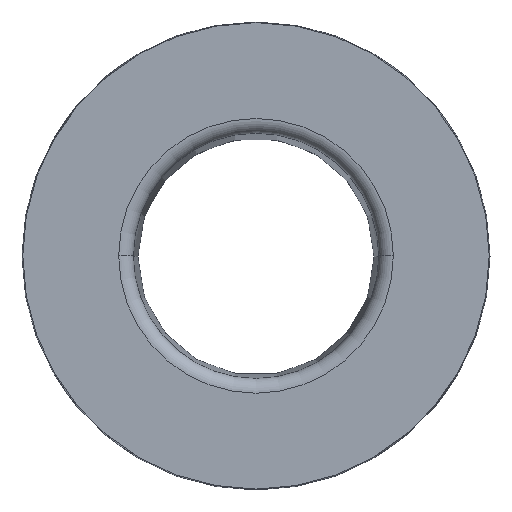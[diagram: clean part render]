
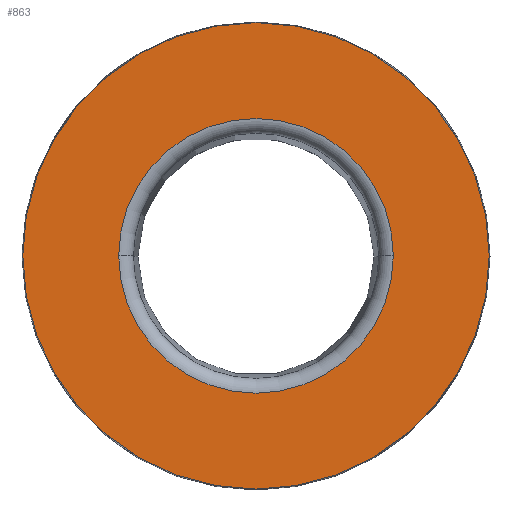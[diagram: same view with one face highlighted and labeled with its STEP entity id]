
A CAD part, top view. The second image highlights one B-rep face of the part: STEP entity #863.
In plain terms, the highlighted planar face has unit normal (0, 0, 1).
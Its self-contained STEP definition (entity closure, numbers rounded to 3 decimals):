
#19 = CARTESIAN_POINT ( 'NONE',  ( 4.696, 0., 18.5 ) ) ;
#44 = AXIS2_PLACEMENT_3D ( 'NONE', #505, #429, #342 ) ;
#54 = CARTESIAN_POINT ( 'NONE',  ( 0., 0., 18.5 ) ) ;
#107 = FACE_BOUND ( 'NONE', #977, .T. ) ;
#175 = VERTEX_POINT ( 'NONE', #19 ) ;
#236 = EDGE_CURVE ( 'NONE', #868, #837, #1151, .T. ) ;
#272 = DIRECTION ( 'NONE',  ( 0., 0., 1. ) ) ;
#312 = DIRECTION ( 'NONE',  ( 1., 0., 0. ) ) ;
#342 = DIRECTION ( 'NONE',  ( 1., 0., 0. ) ) ;
#375 = CARTESIAN_POINT ( 'NONE',  ( 0., 0., 18.5 ) ) ;
#391 = FACE_OUTER_BOUND ( 'NONE', #628, .T. ) ;
#429 = DIRECTION ( 'NONE',  ( 0., 0., -1. ) ) ;
#432 = DIRECTION ( 'NONE',  ( 1., 0., 0. ) ) ;
#437 = AXIS2_PLACEMENT_3D ( 'NONE', #375, #988, #451 ) ;
#443 = CARTESIAN_POINT ( 'NONE',  ( -7.974, 0., 18.5 ) ) ;
#451 = DIRECTION ( 'NONE',  ( 1., 0., 0. ) ) ;
#493 = CARTESIAN_POINT ( 'NONE',  ( 0., 0., 18.5 ) ) ;
#505 = CARTESIAN_POINT ( 'NONE',  ( 0., 0., 18.5 ) ) ;
#584 = ORIENTED_EDGE ( 'NONE', *, *, #623, .T. ) ;
#623 = EDGE_CURVE ( 'NONE', #1154, #175, #953, .T. ) ;
#628 = EDGE_LOOP ( 'NONE', ( #965, #869 ) ) ;
#655 = AXIS2_PLACEMENT_3D ( 'NONE', #724, #272, #432 ) ;
#701 = AXIS2_PLACEMENT_3D ( 'NONE', #493, #1042, #312 ) ;
#724 = CARTESIAN_POINT ( 'NONE',  ( 0., 0., 18.5 ) ) ;
#748 = CIRCLE ( 'NONE', #701, 4.696 ) ;
#770 = ORIENTED_EDGE ( 'NONE', *, *, #1105, .T. ) ;
#804 = CARTESIAN_POINT ( 'NONE',  ( 7.974, 0., 18.5 ) ) ;
#837 = VERTEX_POINT ( 'NONE', #443 ) ;
#863 = ADVANCED_FACE ( 'NONE', ( #107, #391 ), #1068, .T. ) ;
#868 = VERTEX_POINT ( 'NONE', #804 ) ;
#869 = ORIENTED_EDGE ( 'NONE', *, *, #929, .T. ) ;
#876 = DIRECTION ( 'NONE',  ( 0., 0., 1. ) ) ;
#923 = CIRCLE ( 'NONE', #437, 7.974 ) ;
#929 = EDGE_CURVE ( 'NONE', #837, #868, #923, .T. ) ;
#946 = AXIS2_PLACEMENT_3D ( 'NONE', #54, #876, #1056 ) ;
#953 = CIRCLE ( 'NONE', #44, 4.696 ) ;
#965 = ORIENTED_EDGE ( 'NONE', *, *, #236, .T. ) ;
#977 = EDGE_LOOP ( 'NONE', ( #770, #584 ) ) ;
#988 = DIRECTION ( 'NONE',  ( 0., 0., 1. ) ) ;
#1042 = DIRECTION ( 'NONE',  ( 0., 0., -1. ) ) ;
#1056 = DIRECTION ( 'NONE',  ( 1., 0., 0. ) ) ;
#1068 = PLANE ( 'NONE',  #655 ) ;
#1105 = EDGE_CURVE ( 'NONE', #175, #1154, #748, .T. ) ;
#1132 = CARTESIAN_POINT ( 'NONE',  ( -4.696, 0., 18.5 ) ) ;
#1151 = CIRCLE ( 'NONE', #946, 7.974 ) ;
#1154 = VERTEX_POINT ( 'NONE', #1132 ) ;
